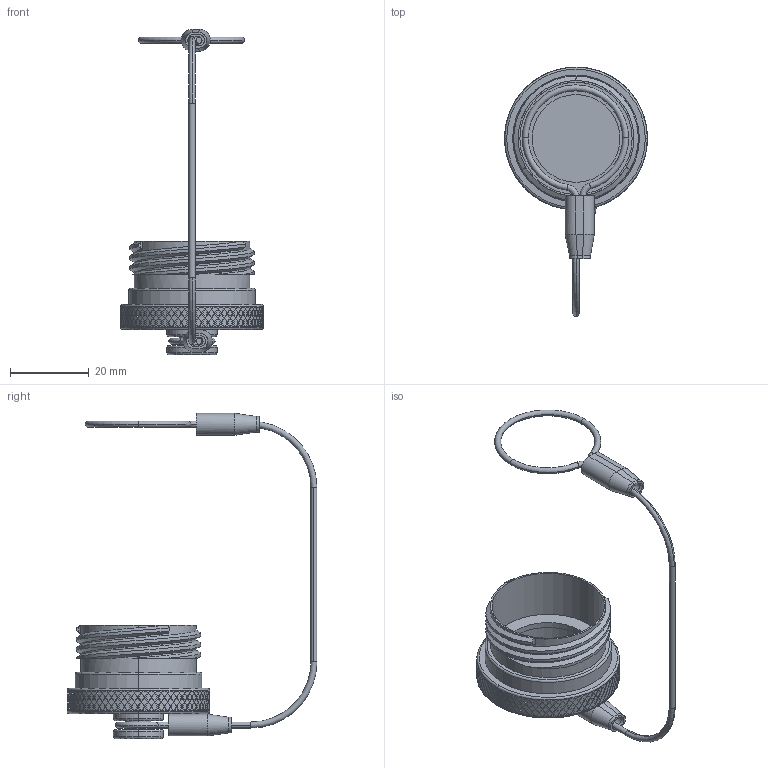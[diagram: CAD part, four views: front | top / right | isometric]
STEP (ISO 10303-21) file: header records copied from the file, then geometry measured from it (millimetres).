
FILE_DESCRIPTION (( 'STEP AP214' ), '1' );
FILE_NAME ('Q38DC-PGX-19-R2.STEP', '2026-04-22T18:22:23', ( '' ), ( '' ), 'SwSTEP 2.0', 'SolidWorks 2024', '' );
FILE_SCHEMA (( 'AUTOMOTIVE_DESIGN' ));
Length unit declared in the file: inch
Products named in the file (7): Q38-XX29-P_19P; SW-003; LN-06-07-XX-Q38eb_Plug; Q38-XX28-X_Q38-1928; HEAT SHRINK_HS-250X625; Q38DC-PGX-19-R2; Lanyard Assembly Q38_PLUG
Assembly tree (8 placements, depth 3):
  Q38DC-PGX-19-R2
    Q38-XX28-X_Q38-1928
    Lanyard Assembly Q38_PLUG
      LN-06-07-XX-Q38eb_Plug
      SW-003  x2
      HEAT SHRINK_HS-250X625  x2
    Q38-XX29-P_19P
Bounding box: 36.14 x 63.28 x 82.38 mm (x, y, z)
Volume: 9335.2 mm3; surface area: 10691.8 mm2
Topology: 7 solids, 7 shells, 1826 faces, 4385 edges, 2901 vertices
Faces by surface type: plane 1372, cylinder 403, torus 34, bspline 17
Entity records: 53286 total; most frequent: CARTESIAN_POINT 17991, ORIENTED_EDGE 8622, DIRECTION 5889, EDGE_CURVE 4311, VERTEX_POINT 2857, AXIS2_PLACEMENT_3D 2228, EDGE_LOOP 2126, ADVANCED_FACE 1792
